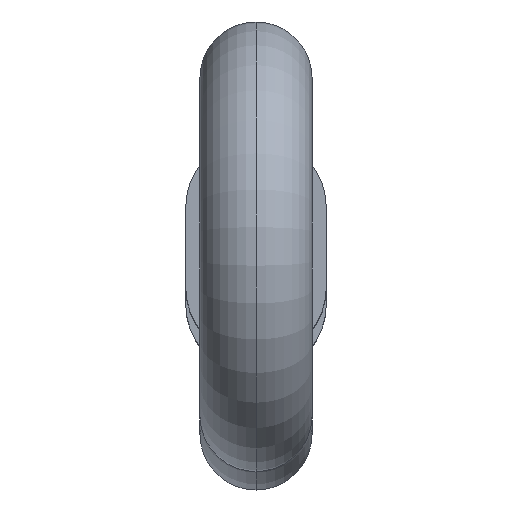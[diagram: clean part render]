
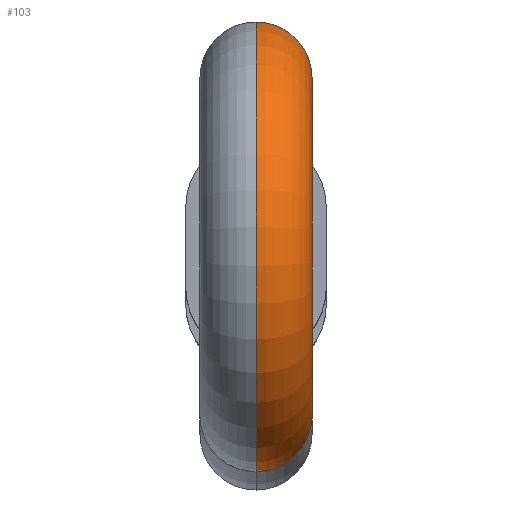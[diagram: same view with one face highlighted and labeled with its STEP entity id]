
A CAD part, top view. The second image highlights one B-rep face of the part: STEP entity #103.
In plain terms, the highlighted toroidal (fillet/blend) face has major radius 4.8 mm and minor radius 1.59 mm.
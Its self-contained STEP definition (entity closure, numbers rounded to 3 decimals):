
#13 = DIRECTION ( 'NONE',  ( 1., 0., 0. ) ) ;
#70 = EDGE_CURVE ( 'NONE', #1015, #129, #474, .T. ) ;
#94 = CARTESIAN_POINT ( 'NONE',  ( 0., -1.133, 152.4 ) ) ;
#96 = VERTEX_POINT ( 'NONE', #898 ) ;
#103 = ADVANCED_FACE ( 'NONE', ( #490 ), #851, .T. ) ;
#121 = CIRCLE ( 'NONE', #688, 6.39 ) ;
#129 = VERTEX_POINT ( 'NONE', #191 ) ;
#136 = EDGE_CURVE ( 'NONE', #363, #96, #121, .T. ) ;
#161 = EDGE_CURVE ( 'NONE', #1015, #363, #407, .T. ) ;
#174 = DIRECTION ( 'NONE',  ( 0., 0., -1. ) ) ;
#179 = CARTESIAN_POINT ( 'NONE',  ( 0., -1.133, 152.4 ) ) ;
#191 = CARTESIAN_POINT ( 'NONE',  ( 0., -3.526, 150.26 ) ) ;
#199 = ORIENTED_EDGE ( 'NONE', *, *, #70, .F. ) ;
#266 = DIRECTION ( 'NONE',  ( 1., 0., 0. ) ) ;
#283 = EDGE_LOOP ( 'NONE', ( #549, #861, #682, #199 ) ) ;
#341 = CIRCLE ( 'NONE', #987, 1.59 ) ;
#353 = CARTESIAN_POINT ( 'NONE',  ( 0., -1.133, 152.4 ) ) ;
#363 = VERTEX_POINT ( 'NONE', #412 ) ;
#382 = EDGE_CURVE ( 'NONE', #129, #96, #341, .T. ) ;
#407 = CIRCLE ( 'NONE', #539, 1.59 ) ;
#412 = CARTESIAN_POINT ( 'NONE',  ( 0., 3.63, 148.14 ) ) ;
#418 = DIRECTION ( 'NONE',  ( 1., 0., 0. ) ) ;
#429 = DIRECTION ( 'NONE',  ( 0., 0.667, -0.745 ) ) ;
#474 = CIRCLE ( 'NONE', #720, 3.21 ) ;
#490 = FACE_OUTER_BOUND ( 'NONE', #283, .T. ) ;
#510 = DIRECTION ( 'NONE',  ( 1., 0., 0. ) ) ;
#539 = AXIS2_PLACEMENT_3D ( 'NONE', #585, #733, #510 ) ;
#549 = ORIENTED_EDGE ( 'NONE', *, *, #161, .T. ) ;
#571 = AXIS2_PLACEMENT_3D ( 'NONE', #353, #13, #174 ) ;
#585 = CARTESIAN_POINT ( 'NONE',  ( 0., 2.445, 149.2 ) ) ;
#682 = ORIENTED_EDGE ( 'NONE', *, *, #382, .F. ) ;
#688 = AXIS2_PLACEMENT_3D ( 'NONE', #94, #266, #728 ) ;
#720 = AXIS2_PLACEMENT_3D ( 'NONE', #179, #418, #811 ) ;
#728 = DIRECTION ( 'NONE',  ( 0., 0., -1. ) ) ;
#733 = DIRECTION ( 'NONE',  ( 0., 0.667, 0.745 ) ) ;
#734 = CARTESIAN_POINT ( 'NONE',  ( 0., 1.259, 150.26 ) ) ;
#745 = DIRECTION ( 'NONE',  ( 1., 0., 0. ) ) ;
#811 = DIRECTION ( 'NONE',  ( 0., 0., -1. ) ) ;
#820 = CARTESIAN_POINT ( 'NONE',  ( 0., -4.711, 149.2 ) ) ;
#851 = TOROIDAL_SURFACE ( 'NONE', #571, 4.8, 1.59 ) ;
#861 = ORIENTED_EDGE ( 'NONE', *, *, #136, .T. ) ;
#898 = CARTESIAN_POINT ( 'NONE',  ( 0., -5.896, 148.14 ) ) ;
#987 = AXIS2_PLACEMENT_3D ( 'NONE', #820, #429, #745 ) ;
#1015 = VERTEX_POINT ( 'NONE', #734 ) ;
